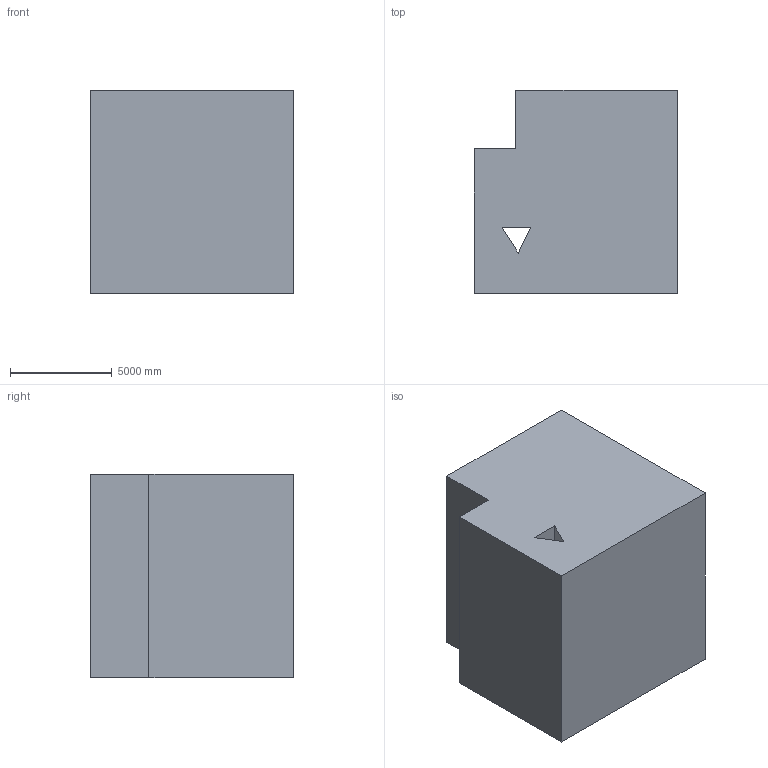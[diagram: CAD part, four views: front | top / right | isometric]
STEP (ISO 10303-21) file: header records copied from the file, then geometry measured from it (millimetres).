
FILE_DESCRIPTION (( 'STEP AP203' ), '1' );
FILE_NAME ('111.STEP', '2022-07-28T13:38:33', ( 'user' ), ( '' ), 'SwSTEP 2.0', 'SolidWorks 2021', '' );
FILE_SCHEMA (( 'CONFIG_CONTROL_DESIGN' ));
Length unit declared in the file: centimetre
Products named in the file (1): 111
Bounding box: 10000 x 10000 x 10000 mm (x, y, z)
Volume: 932263645082.3 mm3; surface area: 629873483.7 mm2
Topology: 1 solids, 1 shells, 11 faces, 27 edges, 18 vertices
Faces by surface type: plane 11
Entity records: 402 total; most frequent: CARTESIAN_POINT 57, ORIENTED_EDGE 54, DIRECTION 51, LINE 27, EDGE_CURVE 27, VECTOR 27, VERTEX_POINT 18, EDGE_LOOP 13
